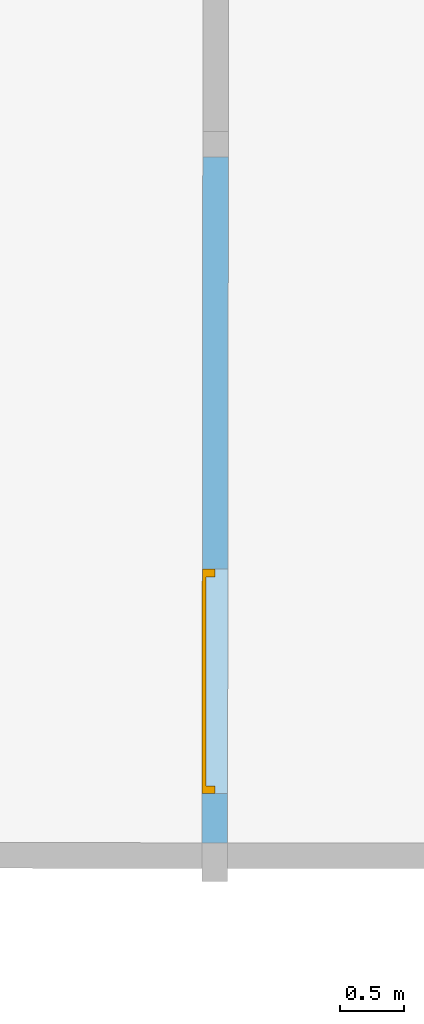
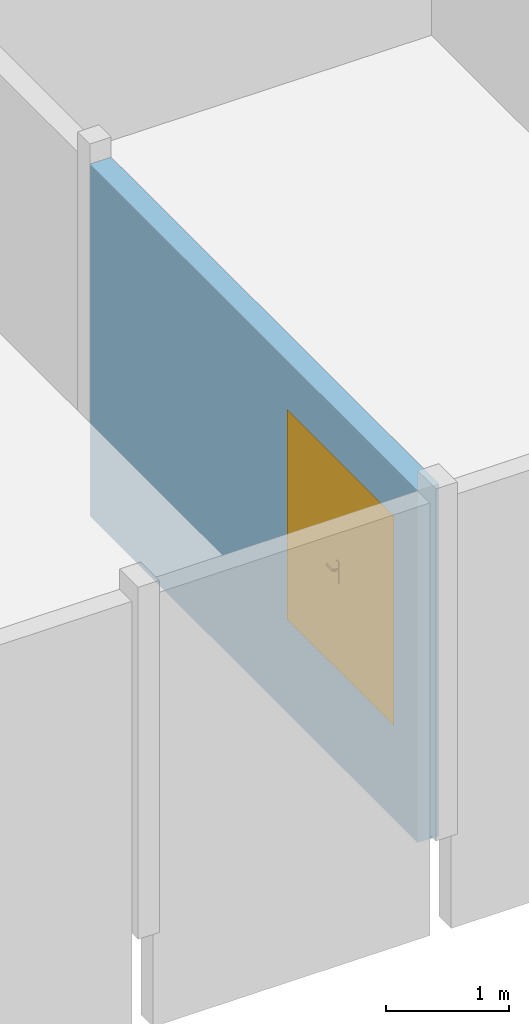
# One storey, part 15 of 24: 1 door, 1 opening, plus 1 element that does not belong to this part.
"""IFC2X3 building model written with IfcOpenShell, lengths in metres."""

from ifc_helpers import new_model, entity, si_unit, converted_unit, derived_unit, direction, frame, frame_2d, origin, place, context, subcontext, project, spatial, rectangle, extrude, faceted_brep, source, transform, mapped, material, material_list, layer, layer_set, layer_usage, type_object, type_shapes, element, fill, save


model = new_model("IFC2X3")

# Units and contexts
model_context = context("Model", 3, precision=1e-05, world=origin(), true_north=direction((6.123233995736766e-17, 1.0)))
body_context = subcontext(model_context, "Body", "Model", "MODEL_VIEW")
ifc_project = project(units=[si_unit("LENGTHUNIT", "METRE"), si_unit("AREAUNIT", "SQUARE_METRE"), converted_unit("PLANEANGLEUNIT", "DEGREE", entity("IfcPlaneAngleMeasure", 0.017453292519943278), si_unit("PLANEANGLEUNIT", "RADIAN"), dimensions=[0, 0, 0, 0, 0, 0, 0]), derived_unit("THERMALTRANSMITTANCEUNIT", [(si_unit("MASSUNIT", "GRAM", prefix="KILO"), 1), (si_unit("THERMODYNAMICTEMPERATUREUNIT", "KELVIN"), -1), (si_unit("TIMEUNIT", "SECOND"), -3)])], contexts=[model_context])

# Site, building, storey
site_placement = place(None, frame((1253.6752467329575, 2072.143113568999, 91.49999999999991), z_axis=(0.0, 0.0, 1.0), x_axis=(0.7237211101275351, 0.6900925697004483, 0.0)))
site = spatial("IfcSite", under=ifc_project, at=site_placement, Name="Surface", CompositionType="ELEMENT")
building_placement = place(site_placement, origin())
building = spatial("IfcBuilding", under=site, at=building_placement, CompositionType="ELEMENT")
storey_placement = place(building_placement, frame((0.0, 0.0, -7.049999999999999)))
storey = spatial("IfcBuildingStorey", under=building, at=storey_placement, Name="R-1", CompositionType="ELEMENT", Elevation=-7.049999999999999)

# Wall, opening, door
ifc_material_1 = material(Name="Béton - Béton coulé sur place")
ifc_layer = layer(ifc_material_1, 0.2)
ifc_layer_set = layer_set([ifc_layer], Name="Mur de base:MUR 20")
ifc_layer_usage = layer_usage(ifc_layer_set, "AXIS2", "NEGATIVE", 0.1)
wall_type = type_object("IfcWallType", Name="Mur de base:MUR 20", PredefinedType="STANDARD", material=ifc_layer_set)
wall_placement = place(storey_placement, frame((195.15492824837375, -5.041752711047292, -0.2), z_axis=(0.0, 0.0, 1.0), x_axis=(-0.6909838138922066, -0.72287022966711, 0.0)))
wall = element("IfcWallStandardCase", 1, at=wall_placement, inside=storey, type_object=wall_type, material=ifc_layer_usage, Name="Mur de base:MUR 20", ObjectType="Mur de base:MUR 20", context=body_context, shape_type="SweptSolid", body=[
    extrude(rectangle(XDim=5.35000000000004, YDim=0.19999999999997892, at=frame_2d((2.675000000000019, 2.706168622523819e-16), x_axis=(-1.0, 0.0))), origin(), (0.0, 0.0, 1.0), 3.499999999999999),
])
opening_placement = place(wall_placement, frame((4.96499999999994, 0.10000000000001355, 0.9299999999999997)))
opening = element("IfcOpeningElement", 2, at=opening_placement, cuts=wall, Name="OMD_Porte 2V tunnel:double 160x204:1", ObjectType="Opening", context=body_context, shape_type="SweptSolid", body=[
    extrude(rectangle(XDim=2.085, YDim=1.749999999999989, at=frame_2d((1.0425, 0.8750000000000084), x_axis=(1.0, 0.0))), frame((0.0, 0.0, 0.0), z_axis=(0.0, -1.0, 0.0), x_axis=(0.0, 0.0, 1.0)), (0.0, 0.0, 1.0), 0.2),
])
ifc_material_2 = material(Name="<Unnamed>")
ifc_material_3 = material(Name="Porte - Poignée")
ifc_material_4 = material(Name="OMD_Bois")
ifc_material_list = material_list([ifc_material_2, ifc_material_3, ifc_material_4])
door_style = type_object("IfcDoorStyle", Name="OMD_Porte 2V tunnel:double 160x204", ConstructionType="NOTDEFINED", OperationType="NOTDEFINED", ParameterTakesPrecedence=False, Sizeable=False, material=ifc_material_list)
shared_shape = source(origin(), body_context, "Body", "Brep", [
    faceted_brep([(1.7049999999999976, 0.030000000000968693, 0.0), (1.7049999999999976, 0.0, 0.0), (0.8899999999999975, 0.0, 0.0), (0.8899999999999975, 0.030000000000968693, 0.0), (1.7049999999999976, 0.030000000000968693, 2.04), (1.7049999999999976, 0.0, 2.04), (0.8899999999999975, 0.0, 2.04), (0.8899999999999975, 0.030000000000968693, 2.04)], [[[0, 1, 2, 3]], [[4, 5, 1, 0]], [[5, 6, 2, 1]], [[6, 7, 3, 2]], [[7, 4, 0, 3]], [[4, 7, 6, 5]]]),
    faceted_brep([(0.8370252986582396, 0.03500000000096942, 1.0077804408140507), (0.8329747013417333, 0.03500000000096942, 1.007780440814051), (0.8289999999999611, 0.03500000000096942, 1.00699999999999), (0.8289999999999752, 0.03500000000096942, 0.9930000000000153), (0.83297470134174, 0.03500000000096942, 0.9922195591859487), (0.8370252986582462, 0.03500000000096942, 0.9922195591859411), (0.8410000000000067, 0.03500000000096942, 0.9929999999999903), (0.8410000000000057, 0.03500000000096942, 1.006999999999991), (0.8289999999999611, 0.057485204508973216, 1.00699999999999), (0.8289999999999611, 0.05748520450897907, 0.9930000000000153), (0.832974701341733, 0.05913157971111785, 1.007780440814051), (0.8370252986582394, 0.06080939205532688, 1.0077804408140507), (0.8208389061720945, 0.07699578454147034, 1.0077804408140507), (0.8191610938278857, 0.0729451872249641, 1.007780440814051), (0.7357931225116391, 0.07294518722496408, 1.0077804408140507), (0.7341153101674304, 0.07699578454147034, 1.0077804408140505), (0.7264510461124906, 0.06933152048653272, 1.0077804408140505), (0.7293152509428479, 0.06646731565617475, 1.0077804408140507), (0.8410000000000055, 0.06245576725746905, 1.006999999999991), (0.8410000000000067, 0.06245576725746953, 0.9929999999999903), (0.8370252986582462, 0.060809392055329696, 0.9922195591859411), (0.83297470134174, 0.05913157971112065, 0.9922195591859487), (0.8191610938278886, 0.07294518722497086, 0.9922195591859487), (0.8208389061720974, 0.0769957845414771, 0.9922195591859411), (0.7341153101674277, 0.07699578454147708, 0.9922195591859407), (0.7357931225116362, 0.07294518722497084, 0.9922195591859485), (0.7293152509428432, 0.06646731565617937, 0.9922195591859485), (0.7264510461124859, 0.06933152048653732, 0.9922195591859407), (0.8175147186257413, 0.06897048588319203, 1.00699999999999), (0.8175147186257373, 0.0689704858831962, 0.9930000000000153), (0.8224852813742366, 0.08097048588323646, 1.006999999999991), (0.822485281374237, 0.08097048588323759, 0.9929999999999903), (0.7774771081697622, 0.06897048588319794, 1.0069999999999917), (0.7374394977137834, 0.06897048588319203, 1.0069999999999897), (0.7374394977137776, 0.06897048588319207, 0.9930000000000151), (0.7774771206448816, 0.06897048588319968, 0.9930000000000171), (0.7774771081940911, 0.0751249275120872, 1.0078781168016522), (0.7723994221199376, 0.0809704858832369, 1.0069999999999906), (0.7324689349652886, 0.08097048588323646, 1.0069999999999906), (0.7825547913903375, 0.08097048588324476, 0.9929999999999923), (0.7324689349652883, 0.08097048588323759, 0.99299999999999), (0.7774771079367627, 0.07512492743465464, 0.9921218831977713), (0.7236405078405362, 0.07214205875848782, 1.0069999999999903), (0.7236405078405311, 0.07214205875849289, 0.9929999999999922), (0.7321257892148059, 0.06365677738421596, 0.9930000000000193), (0.7321257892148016, 0.06365677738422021, 1.0069999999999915)], [[[0, 1, 2, 3, 4, 5, 6, 7]], [[8, 9, 3, 2]], [[1, 10, 8, 2]], [[1, 0, 11, 12, 13, 10]], [[14, 15, 16, 17]], [[7, 18, 11, 0]], [[18, 7, 6, 19]], [[6, 5, 20, 19]], [[5, 4, 21, 22, 23, 20]], [[24, 25, 26, 27]], [[4, 3, 9, 21]], [[28, 29, 9, 8]], [[8, 10, 13, 28]], [[18, 30, 12, 11]], [[31, 30, 18, 19]], [[19, 20, 23, 31]], [[21, 9, 29, 22]], [[29, 28, 32, 33, 34, 35]], [[36, 32, 13]], [[37, 38, 15]], [[37, 12, 30]], [[36, 12, 37]], [[14, 32, 36]], [[36, 15, 14]], [[28, 13, 32]], [[32, 14, 33]], [[12, 36, 13]], [[15, 36, 37]], [[30, 31, 39, 40, 38, 37]], [[23, 41, 39]], [[24, 39, 41]], [[39, 31, 23]], [[39, 24, 40]], [[22, 35, 41]], [[41, 23, 22]], [[41, 35, 25]], [[35, 22, 29]], [[34, 25, 35]], [[24, 41, 25]], [[17, 16, 42, 43, 27, 26, 44, 45]], [[45, 44, 34, 33]], [[33, 14, 17, 45]], [[15, 38, 42, 16]], [[43, 42, 38, 40]], [[24, 27, 43, 40]], [[34, 44, 26, 25]]]),
    faceted_brep([(0.8329747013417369, -0.00499999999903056, 1.007780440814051), (0.837025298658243, -0.00499999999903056, 1.0077804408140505), (0.8410000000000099, -0.00499999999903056, 1.0069999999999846), (0.8410000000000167, -0.00499999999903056, 0.9929999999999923), (0.8370252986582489, -0.00499999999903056, 0.992219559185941), (0.8329747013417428, -0.00499999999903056, 0.9922195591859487), (0.8289999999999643, -0.00499999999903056, 0.9930000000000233), (0.8289999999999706, -0.00499999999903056, 1.006999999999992), (0.8370252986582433, -0.031004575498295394, 1.0077804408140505), (0.8410000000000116, -0.032650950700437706, 1.0069999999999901), (0.832974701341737, -0.029326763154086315, 1.007780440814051), (0.8192986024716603, -0.04300286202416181, 1.007780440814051), (0.8209764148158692, -0.04705345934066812, 1.0077804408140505), (0.7341424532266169, -0.04705345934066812, 1.0077804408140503), (0.735820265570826, -0.04300286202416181, 1.0077804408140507), (0.7293423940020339, -0.03652499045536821, 1.0077804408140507), (0.7264781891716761, -0.03938919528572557, 1.0077804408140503), (0.8289999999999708, -0.027680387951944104, 1.006999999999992), (0.8289999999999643, -0.027680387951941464, 0.9930000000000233), (0.8329747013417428, -0.0293267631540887, 0.9922195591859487), (0.8370252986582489, -0.03100457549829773, 0.992219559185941), (0.8209764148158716, -0.04705345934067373, 0.992219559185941), (0.8192986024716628, -0.04300286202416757, 0.9922195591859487), (0.7358202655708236, -0.043002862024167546, 0.9922195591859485), (0.7341424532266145, -0.04705345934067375, 0.9922195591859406), (0.7264781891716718, -0.03938919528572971, 0.9922195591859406), (0.7293423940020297, -0.03652499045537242, 0.9922195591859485), (0.8410000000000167, -0.032650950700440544, 0.9929999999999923), (0.8226227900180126, -0.05102816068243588, 1.0069999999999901), (0.8176522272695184, -0.039028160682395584, 1.006999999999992), (0.8176522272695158, -0.03902816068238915, 0.9930000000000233), (0.8226227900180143, -0.05102816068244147, 0.9929999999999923), (0.7775594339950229, -0.04518280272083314, 1.0078781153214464), (0.7826923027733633, -0.051028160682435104, 1.0069999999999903), (0.7324960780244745, -0.051028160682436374, 1.00699999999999), (0.7775594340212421, -0.039028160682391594, 1.0069999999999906), (0.7374666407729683, -0.03902816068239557, 1.0069999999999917), (0.7775594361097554, -0.03902816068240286, 0.9930000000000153), (0.737466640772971, -0.03902816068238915, 0.9930000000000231), (0.7775594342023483, -0.04518280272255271, 0.9921218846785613), (0.7724265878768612, -0.05102816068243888, 0.9929999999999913), (0.7324960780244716, -0.05102816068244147, 0.9929999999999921), (0.732152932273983, -0.03371445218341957, 0.9930000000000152), (0.7236676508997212, -0.04219973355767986, 0.9929999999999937), (0.7236676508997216, -0.0421997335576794, 1.0069999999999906), (0.7321529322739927, -0.033714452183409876, 1.0069999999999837)], [[[0, 1, 2, 3, 4, 5, 6, 7]], [[2, 1, 8, 9]], [[1, 0, 10, 11, 12, 8]], [[13, 14, 15, 16]], [[0, 7, 17, 10]], [[18, 17, 7, 6]], [[5, 19, 18, 6]], [[5, 4, 20, 21, 22, 19]], [[23, 24, 25, 26]], [[3, 27, 20, 4]], [[9, 27, 3, 2]], [[9, 8, 12, 28]], [[10, 17, 29, 11]], [[30, 29, 17, 18]], [[18, 19, 22, 30]], [[20, 27, 31, 21]], [[28, 31, 27, 9]], [[12, 32, 33]], [[13, 33, 32]], [[33, 28, 12]], [[33, 13, 34]], [[11, 35, 32]], [[32, 12, 11]], [[32, 35, 14]], [[35, 11, 29]], [[36, 14, 35]], [[13, 32, 14]], [[29, 30, 37, 38, 36, 35]], [[39, 37, 22]], [[40, 41, 24]], [[40, 21, 31]], [[39, 21, 40]], [[23, 37, 39]], [[39, 24, 23]], [[30, 22, 37]], [[37, 23, 38]], [[21, 39, 22]], [[24, 39, 40]], [[31, 28, 33, 34, 41, 40]], [[42, 26, 25, 43, 44, 16, 15, 45]], [[13, 16, 44, 34]], [[36, 45, 15, 14]], [[42, 45, 36, 38]], [[38, 23, 26, 42]], [[24, 41, 43, 25]], [[44, 43, 41, 34]]]),
    faceted_brep([(0.8349999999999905, 0.030000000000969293, 0.8646410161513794), (0.8453527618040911, 0.030000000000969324, 0.866003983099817), (0.8549999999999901, 0.03000000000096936, 0.8700000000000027), (0.85499999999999, 0.03000000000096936, 1.0800000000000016), (0.8453527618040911, 0.030000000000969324, 1.0839960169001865), (0.8349999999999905, 0.030000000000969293, 1.0853589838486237), (0.8246472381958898, 0.03000000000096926, 1.0839960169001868), (0.8149999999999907, 0.030000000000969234, 1.0800000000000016), (0.8149999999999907, 0.030000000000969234, 0.8700000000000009), (0.8246472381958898, 0.03000000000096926, 0.8660039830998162), (0.8349999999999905, 0.03500000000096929, 1.0853589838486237), (0.8453527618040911, 0.035000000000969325, 1.0839960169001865), (0.85499999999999, 0.03500000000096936, 1.0800000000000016), (0.8549999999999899, 0.03500000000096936, 0.8700000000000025), (0.8453527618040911, 0.035000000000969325, 0.866003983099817), (0.8349999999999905, 0.03500000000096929, 0.8646410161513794), (0.8246472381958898, 0.035000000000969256, 0.8660039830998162), (0.8149999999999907, 0.03500000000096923, 0.8700000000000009), (0.8149999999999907, 0.03500000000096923, 1.0800000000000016), (0.8246472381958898, 0.035000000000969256, 1.0839960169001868)], [[[0, 1, 2, 3, 4, 5, 6, 7, 8, 9]], [[10, 11, 12, 13, 14, 15, 16, 17, 18, 19]], [[6, 19, 18, 7]], [[5, 10, 19, 6]], [[4, 11, 10, 5]], [[4, 3, 12, 11]], [[12, 3, 2, 13]], [[1, 14, 13, 2]], [[0, 15, 14, 1]], [[9, 16, 15, 0]], [[9, 8, 17, 16]], [[17, 8, 7, 18]]]),
    faceted_brep([(0.8349999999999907, -0.004999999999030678, 0.8646410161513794), (0.8453527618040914, -0.004999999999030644, 0.8660039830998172), (0.8549999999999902, -0.004999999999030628, 0.8700000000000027), (0.85499999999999, -0.004999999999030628, 1.0800000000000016), (0.845352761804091, -0.004999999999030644, 1.0839960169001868), (0.8349999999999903, -0.004999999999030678, 1.0853589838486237), (0.8246472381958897, -0.004999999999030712, 1.0839960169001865), (0.8149999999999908, -0.004999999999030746, 1.0800000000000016), (0.8149999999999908, -0.004999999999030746, 0.8700000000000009), (0.82464723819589, -0.004999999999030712, 0.8660039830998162), (0.85499999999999, 0.0, 1.0800000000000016), (0.8549999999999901, 0.0, 0.8700000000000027), (0.8453527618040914, 0.0, 0.8660039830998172), (0.8349999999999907, 0.0, 0.8646410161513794), (0.82464723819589, 0.0, 0.8660039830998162), (0.8149999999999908, 0.0, 0.8700000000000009), (0.8149999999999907, 0.0, 1.0800000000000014), (0.8246472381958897, 0.0, 1.0839960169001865), (0.8349999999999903, 0.0, 1.0853589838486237), (0.845352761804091, 0.0, 1.0839960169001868)], [[[0, 1, 2, 3, 4, 5, 6, 7, 8, 9]], [[10, 11, 12, 13, 14, 15, 16, 17, 18, 19]], [[1, 12, 11, 2]], [[0, 13, 12, 1]], [[9, 14, 13, 0]], [[9, 8, 15, 14]], [[15, 8, 7, 16]], [[6, 17, 16, 7]], [[5, 18, 17, 6]], [[4, 19, 18, 5]], [[4, 3, 10, 19]], [[10, 3, 2, 11]]]),
    faceted_brep([(0.8900000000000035, 0.030000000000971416, 0.0), (0.8900000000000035, 0.0, 0.0), (0.04500000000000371, 0.0, 0.0), (0.04500000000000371, 0.030000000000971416, 0.0), (0.8900000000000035, 0.030000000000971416, 2.04), (0.8900000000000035, 0.0, 2.04), (0.04500000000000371, 0.0, 2.04), (0.04500000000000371, 0.030000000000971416, 2.04)], [[[0, 1, 2, 3]], [[4, 5, 1, 0]], [[5, 6, 2, 1]], [[6, 7, 3, 2]], [[7, 4, 0, 3]], [[4, 7, 6, 5]]]),
    faceted_brep([(1.7499999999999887, 0.0, 0.0), (1.7049999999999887, 0.0, 0.0), (1.7049999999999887, 0.03000000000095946, 0.0), (1.6899999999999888, 0.030000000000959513, 0.0), (1.6899999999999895, 0.10000000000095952, 0.0), (1.7499999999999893, 0.10000000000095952, 0.0), (1.7499999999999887, 0.0, 2.085), (0.0, 0.0, 2.085), (0.0, 0.0, 0.0), (0.04500000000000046, 0.0, 0.0), (0.04500000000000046, 0.0, 2.0399999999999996), (1.7049999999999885, 0.0, 2.039999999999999), (1.7049999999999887, 0.030000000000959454, 2.0399999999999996), (0.04500000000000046, 0.030000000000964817, 2.0399999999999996), (0.04500000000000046, 0.030000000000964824, 0.0), (0.0600000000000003, 0.030000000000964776, 0.0), (0.060000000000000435, 0.030000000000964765, 2.0249999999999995), (1.6899999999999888, 0.03000000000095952, 2.0249999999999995), (1.6899999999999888, 0.10000000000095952, 2.0249999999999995), (0.0600000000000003, 0.10000000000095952, 2.025), (0.0600000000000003, 0.10000000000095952, 0.0), (0.0, 0.10000000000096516, 0.0), (0.0, 0.10000000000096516, 2.085), (1.7499999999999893, 0.10000000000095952, 2.085)], [[[0, 1, 2, 3, 4, 5]], [[1, 0, 6, 7, 8, 9, 10, 11]], [[2, 1, 11, 12]], [[3, 2, 12, 13, 14, 15, 16, 17]], [[4, 3, 17, 18]], [[5, 4, 18, 19, 20, 21, 22, 23]], [[0, 5, 23, 6]], [[7, 22, 21, 8]], [[8, 21, 20, 15, 14, 9]], [[13, 10, 9, 14]], [[19, 16, 15, 20]], [[12, 11, 10, 13]], [[18, 17, 16, 19]], [[6, 23, 22, 7]]]),
])
type_shapes(door_style, [shared_shape])
door_placement = place(opening_placement, frame((-1.749999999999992, -0.19999999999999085, 0.0)))
door = element("IfcDoor", 3, at=door_placement, inside=storey, type_object=door_style, material=ifc_material_list, Name="OMD_Porte 2V tunnel:double 160x204", ObjectType="OMD_Porte 2V tunnel:double 160x204", OverallHeight=2.085, OverallWidth=1.7500000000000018, context=body_context, shape_type="MappedRepresentation", body=[
    mapped(shared_shape, transform((0.0, 0.0, 0.0), scale=1.0)),
])
fill(opening, door)

save(model, "model.ifc")
